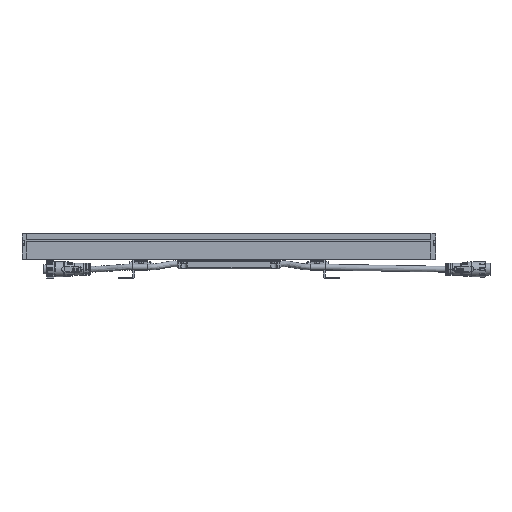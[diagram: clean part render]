
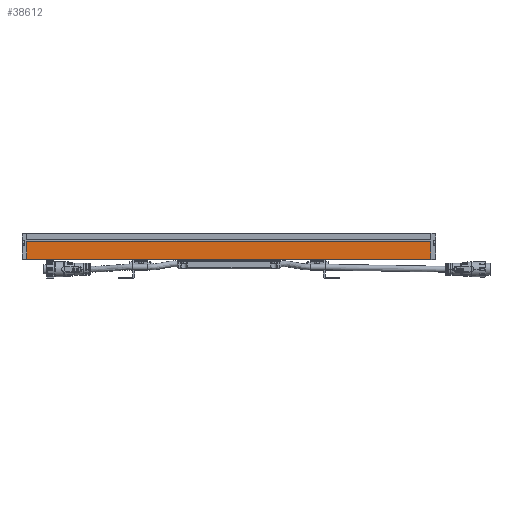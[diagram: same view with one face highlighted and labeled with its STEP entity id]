
A CAD part, top view. The second image highlights one B-rep face of the part: STEP entity #38612.
In plain terms, the highlighted planar face has unit normal (0, 0, 1).
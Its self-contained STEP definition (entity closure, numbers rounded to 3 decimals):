
#1609 = EDGE_CURVE ( 'NONE', #47102, #47544, #5826, .T. ) ;
#4554 = EDGE_CURVE ( 'NONE', #60721, #47102, #30869, .T. ) ;
#4624 = VECTOR ( 'NONE', #41301, 1000. ) ;
#4846 = VECTOR ( 'NONE', #44766, 1000. ) ;
#4930 = ORIENTED_EDGE ( 'NONE', *, *, #1609, .T. ) ;
#5826 = LINE ( 'NONE', #21928, #4846 ) ;
#12732 = ORIENTED_EDGE ( 'NONE', *, *, #4554, .T. ) ;
#19171 = VECTOR ( 'NONE', #21539, 1000. ) ;
#19226 = DIRECTION ( 'NONE',  ( 0., 1., 0. ) ) ;
#20637 = AXIS2_PLACEMENT_3D ( 'NONE', #44352, #27136, #39083 ) ;
#21539 = DIRECTION ( 'NONE',  ( -1., 0., 0. ) ) ;
#21928 = CARTESIAN_POINT ( 'NONE',  ( 244., 18.6, 13. ) ) ;
#27136 = DIRECTION ( 'NONE',  ( 0., 0., 1. ) ) ;
#27393 = EDGE_CURVE ( 'NONE', #47544, #35410, #49615, .T. ) ;
#30114 = CARTESIAN_POINT ( 'NONE',  ( -244., 18.6, 13. ) ) ;
#30123 = LINE ( 'NONE', #46578, #51644 ) ;
#30869 = LINE ( 'NONE', #30114, #4624 ) ;
#32877 = ORIENTED_EDGE ( 'NONE', *, *, #27393, .T. ) ;
#33505 = PLANE ( 'NONE',  #20637 ) ;
#34655 = CARTESIAN_POINT ( 'NONE',  ( -244., 39.9, 13. ) ) ;
#35410 = VERTEX_POINT ( 'NONE', #34655 ) ;
#38612 = ADVANCED_FACE ( 'NONE', ( #55172 ), #33505, .T. ) ;
#39083 = DIRECTION ( 'NONE',  ( 1., 0., 0. ) ) ;
#41301 = DIRECTION ( 'NONE',  ( 1., 0., 0. ) ) ;
#44352 = CARTESIAN_POINT ( 'NONE',  ( 156., 39.9, 13. ) ) ;
#44766 = DIRECTION ( 'NONE',  ( 0., 1., 0. ) ) ;
#46578 = CARTESIAN_POINT ( 'NONE',  ( -244., 18.6, 13. ) ) ;
#47102 = VERTEX_POINT ( 'NONE', #48573 ) ;
#47544 = VERTEX_POINT ( 'NONE', #73743 ) ;
#48573 = CARTESIAN_POINT ( 'NONE',  ( 244., 18.6, 13. ) ) ;
#49615 = LINE ( 'NONE', #66372, #19171 ) ;
#51603 = ORIENTED_EDGE ( 'NONE', *, *, #62189, .F. ) ;
#51644 = VECTOR ( 'NONE', #19226, 1000. ) ;
#55172 = FACE_OUTER_BOUND ( 'NONE', #70510, .T. ) ;
#60721 = VERTEX_POINT ( 'NONE', #64738 ) ;
#62189 = EDGE_CURVE ( 'NONE', #60721, #35410, #30123, .T. ) ;
#64738 = CARTESIAN_POINT ( 'NONE',  ( -244., 18.6, 13. ) ) ;
#66372 = CARTESIAN_POINT ( 'NONE',  ( 744., 39.9, 13. ) ) ;
#70510 = EDGE_LOOP ( 'NONE', ( #12732, #4930, #32877, #51603 ) ) ;
#73743 = CARTESIAN_POINT ( 'NONE',  ( 244., 39.9, 13. ) ) ;
